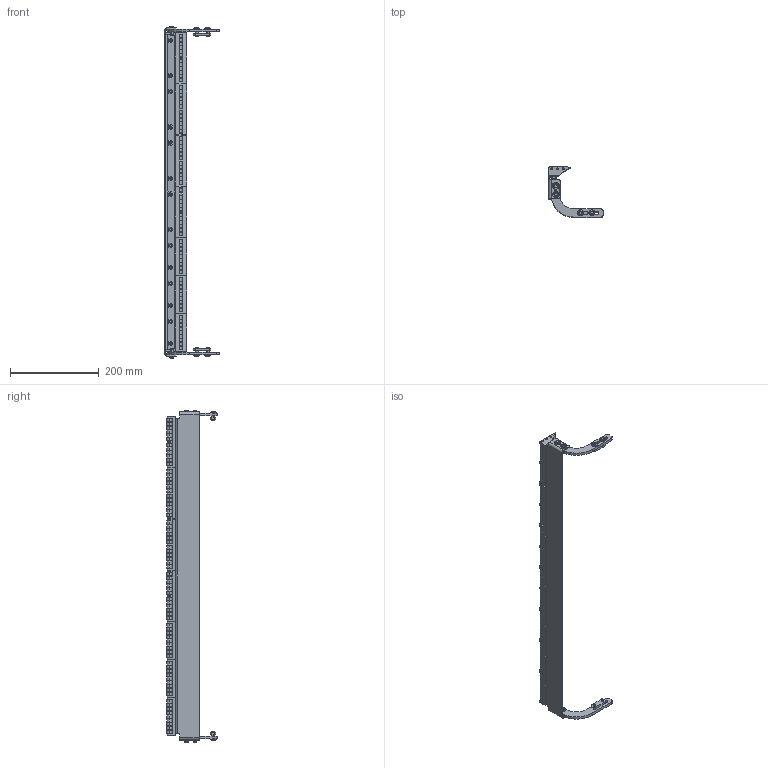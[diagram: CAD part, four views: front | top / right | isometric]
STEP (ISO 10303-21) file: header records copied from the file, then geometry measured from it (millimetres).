
FILE_DESCRIPTION((''),'2;1');
FILE_NAME('518355-28_ASM','2023-03-24T',('jenni.wallner'),(''),'PRO/ENGINEER BY PARAMETRIC TECHNOLOGY CORPORATION, 2012420','PRO/ENGINEER BY PARAMETRIC TECHNOLOGY CORPORATION, 2012420','');
FILE_SCHEMA(('CONFIG_CONTROL_DESIGN'));
Length unit declared in the file: inch
Products named in the file (75): 532387; 518353-WW_518353-28; 807-1830_10-1-SOLID1; 807-1830_26-1-SOLID1; 807-1830_25-1-SOLID1; 807-1830_2-1-SOLID1; 807-1830_33-1-SOLID1; 807-1830_16-1-SOLID1; 807-1830_32-1-SOLID1; 807-1830_12-1-SOLID1; 807-1830_15-1-SOLID1; 807-1830_23-1-SOLID1; 807-1830_18-1-SOLID1; 807-1830-1-SOLID1; 807-1830_13-1-SOLID1; 807-1830_7-1-SOLID1; 807-1830_8-1-SOLID1; 807-1830_5-1-SOLID1; 807-1830_22-1-SOLID1; 807-1830_24-1-SOLID1; 807-1830_27-1-SOLID1; 807-1830_17-1-SOLID1; 807-1830_34-1-SOLID1; 807-1830_30-1-SOLID1; 807-1830_14-1-SOLID1; 807-1830_4-1-SOLID1; 807-1830_20-1-SOLID1; 807-1830_29-1-SOLID1; 807-1830_3-1-SOLID1; 807-1830_1-1-SOLID1; 807-1830_19-1-SOLID1; 807-1830_6-1-SOLID1; 807-1830_11-1-SOLID1; 807-1830_28-1-SOLID1; 807-1830_21-1-SOLID1; 807-1830_31-1-SOLID1; 807-1830_9-1-SOLID1; 807-1830_36-1-SOLID1; 807-1830_35-1-SOLID1; 807-1830_ASM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
Assembly tree (88 placements, depth 4):
  518355-28_ASM
    ASM0001_ASM
      532387  x2
      518353-WW_518353-28
      807-1830_ASM  x4
        807-1830_10-1-SOLID1
        807-1830_26-1-SOLID1
        807-1830_25-1-SOLID1
        807-1830_2-1-SOLID1
        807-1830_33-1-SOLID1
        807-1830_16-1-SOLID1
        807-1830_32-1-SOLID1
        807-1830_12-1-SOLID1
        807-1830_15-1-SOLID1
        807-1830_23-1-SOLID1
        807-1830_18-1-SOLID1
        807-1830-1-SOLID1
        807-1830_13-1-SOLID1
        807-1830_7-1-SOLID1
        807-1830_8-1-SOLID1
        807-1830_5-1-SOLID1
        807-1830_22-1-SOLID1
        807-1830_24-1-SOLID1
        807-1830_27-1-SOLID1
        807-1830_17-1-SOLID1
        807-1830_34-1-SOLID1
        807-1830_30-1-SOLID1
        807-1830_14-1-SOLID1
        807-1830_4-1-SOLID1
        807-1830_20-1-SOLID1
        807-1830_29-1-SOLID1
        807-1830_3-1-SOLID1
        807-1830_1-1-SOLID1
        807-1830_19-1-SOLID1
        807-1830_6-1-SOLID1
        807-1830_11-1-SOLID1
        807-1830_28-1-SOLID1
        807-1830_21-1-SOLID1
        807-1830_31-1-SOLID1
        807-1830_9-1-SOLID1
        807-1830_36-1-SOLID1
        807-1830_35-1-SOLID1
      960616MSSF  x8
      807-1829_ASM  x3
        807-1829_14-1-SOLID1
        807-1829_17-1-SOLID1
        807-1829_21-1-SOLID1
        807-1829_5-1-SOLID1
        807-1829_23-1-SOLID1
        807-1829_9-1-SOLID1
        807-1829_6-1-SOLID1
        807-1829_16-1-SOLID1
        807-1829_11-1-SOLID1
        807-1829_27-1-SOLID1
        CUT-EXTRUDE1_2_
        807-1829_3-1-SOLID1
        807-1829_18-1-SOLID1
        807-1829_25-1-SOLID1
        CUT-EXTRUDE1_1_
        CUT-EXTRUDE1_3_
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Bounding box: 122.82 x 114.68 x 749.72 mm (x, y, z)
Volume: 563819.8 mm3; surface area: 345315.1 mm2
Topology: 251 solids, 251 shells, 1693 faces, 3367 edges, 2225 vertices
Faces by surface type: plane 840, cylinder 793, cone 60
Entity records: 16862 total; most frequent: DIRECTION 3244, CARTESIAN_POINT 2704, ORIENTED_EDGE 2246, AXIS2_PLACEMENT_3D 1345, EDGE_CURVE 1123, VERTEX_POINT 743, EDGE_LOOP 624, CIRCLE 563
